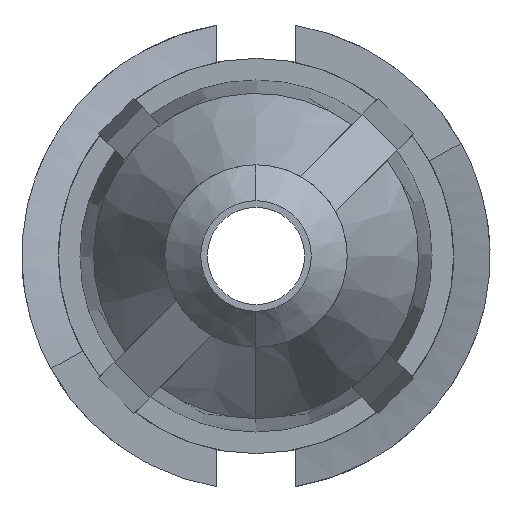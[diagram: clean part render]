
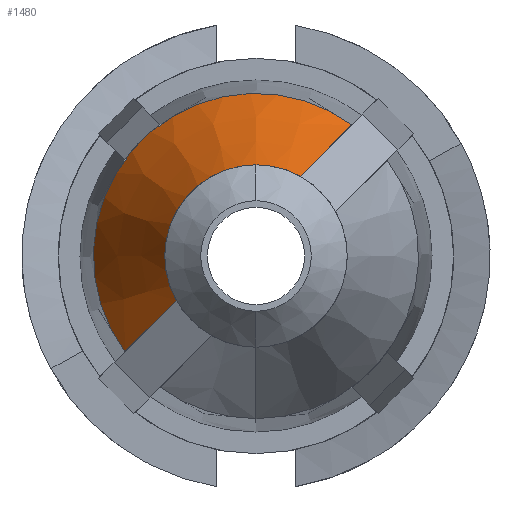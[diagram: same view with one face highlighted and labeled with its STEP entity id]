
A CAD part, left-side view. The second image highlights one B-rep face of the part: STEP entity #1480.
In plain terms, the highlighted conical face has half-angle 23.742 degrees and reference radius 2.674 mm.
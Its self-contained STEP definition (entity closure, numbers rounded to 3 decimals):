
#18 = DIRECTION ( 'NONE',  ( 1., 0., 0. ) ) ;
#175 = FACE_OUTER_BOUND ( 'NONE', #1235, .T. ) ;
#183 = CARTESIAN_POINT ( 'NONE',  ( -56.356, 0.66, 27.506 ) ) ;
#233 = CARTESIAN_POINT ( 'NONE',  ( -54.573, -2.516, 30.682 ) ) ;
#267 = CIRCLE ( 'NONE', #685, 1.5 ) ;
#286 = B_SPLINE_CURVE_WITH_KNOTS ( 'NONE', 3,
 ( #233, #3151, #1004, #1931 ),
 .UNSPECIFIED., .F., .F.,
 ( 4, 4 ),
 ( 0., 0.003 ),
 .UNSPECIFIED. ) ;
#451 = ORIENTED_EDGE ( 'NONE', *, *, #851, .F. ) ;
#507 = CARTESIAN_POINT ( 'NONE',  ( -54.573, 1.222, 26.945 ) ) ;
#513 = ORIENTED_EDGE ( 'NONE', *, *, #1342, .T. ) ;
#538 = CIRCLE ( 'NONE', #2216, 1.5 ) ;
#625 = ORIENTED_EDGE ( 'NONE', *, *, #1683, .T. ) ;
#634 = ORIENTED_EDGE ( 'NONE', *, *, #1659, .F. ) ;
#685 = AXIS2_PLACEMENT_3D ( 'NONE', #1738, #2702, #3171 ) ;
#707 = CARTESIAN_POINT ( 'NONE',  ( -57.243, 0.373, 27.793 ) ) ;
#821 = VERTEX_POINT ( 'NONE', #909 ) ;
#851 = EDGE_CURVE ( 'NONE', #821, #2939, #286, .T. ) ;
#909 = CARTESIAN_POINT ( 'NONE',  ( -54.573, -2.516, 30.682 ) ) ;
#957 = DIRECTION ( 'NONE',  ( 1., 0., 0. ) ) ;
#990 = VERTEX_POINT ( 'NONE', #1879 ) ;
#1004 = CARTESIAN_POINT ( 'NONE',  ( -56.356, -1.954, 30.121 ) ) ;
#1060 = EDGE_CURVE ( 'NONE', #2136, #990, #538, .T. ) ;
#1235 = EDGE_LOOP ( 'NONE', ( #451, #634, #625, #1828, #513 ) ) ;
#1342 = EDGE_CURVE ( 'NONE', #990, #2939, #267, .T. ) ;
#1404 = AXIS2_PLACEMENT_3D ( 'NONE', #3117, #957, #1918 ) ;
#1480 = ADVANCED_FACE ( 'NONE', ( #175 ), #2040, .T. ) ;
#1540 = DIRECTION ( 'NONE',  ( 1., 0., 0. ) ) ;
#1659 = EDGE_CURVE ( 'NONE', #2858, #821, #2780, .T. ) ;
#1683 = EDGE_CURVE ( 'NONE', #2858, #2136, #2771, .T. ) ;
#1738 = CARTESIAN_POINT ( 'NONE',  ( -57.243, -0.937, 28.524 ) ) ;
#1828 = ORIENTED_EDGE ( 'NONE', *, *, #1060, .T. ) ;
#1879 = CARTESIAN_POINT ( 'NONE',  ( -57.243, -0.937, 30.024 ) ) ;
#1918 = DIRECTION ( 'NONE',  ( 0., 0., -1. ) ) ;
#1931 = CARTESIAN_POINT ( 'NONE',  ( -57.243, -1.667, 29.834 ) ) ;
#1973 = DIRECTION ( 'NONE',  ( 0., 0., -1. ) ) ;
#1990 = CARTESIAN_POINT ( 'NONE',  ( -57.243, 0.373, 27.793 ) ) ;
#2040 = CONICAL_SURFACE ( 'NONE', #2507, 2.674, 0.414 ) ;
#2131 = CARTESIAN_POINT ( 'NONE',  ( -54.573, 1.222, 26.945 ) ) ;
#2136 = VERTEX_POINT ( 'NONE', #1990 ) ;
#2215 = CARTESIAN_POINT ( 'NONE',  ( -54.573, -0.937, 28.524 ) ) ;
#2216 = AXIS2_PLACEMENT_3D ( 'NONE', #2969, #1540, #2752 ) ;
#2443 = CARTESIAN_POINT ( 'NONE',  ( -55.464, 0.941, 27.225 ) ) ;
#2486 = CARTESIAN_POINT ( 'NONE',  ( -57.243, -1.667, 29.834 ) ) ;
#2507 = AXIS2_PLACEMENT_3D ( 'NONE', #2215, #18, #1973 ) ;
#2702 = DIRECTION ( 'NONE',  ( 1., 0., 0. ) ) ;
#2752 = DIRECTION ( 'NONE',  ( 0., 0., -1. ) ) ;
#2771 = B_SPLINE_CURVE_WITH_KNOTS ( 'NONE', 3,
 ( #507, #2443, #183, #707 ),
 .UNSPECIFIED., .F., .F.,
 ( 4, 4 ),
 ( 0., 0.003 ),
 .UNSPECIFIED. ) ;
#2780 = CIRCLE ( 'NONE', #1404, 2.674 ) ;
#2858 = VERTEX_POINT ( 'NONE', #2131 ) ;
#2939 = VERTEX_POINT ( 'NONE', #2486 ) ;
#2969 = CARTESIAN_POINT ( 'NONE',  ( -57.243, -0.937, 28.524 ) ) ;
#3117 = CARTESIAN_POINT ( 'NONE',  ( -54.573, -0.937, 28.524 ) ) ;
#3151 = CARTESIAN_POINT ( 'NONE',  ( -55.464, -2.235, 30.402 ) ) ;
#3171 = DIRECTION ( 'NONE',  ( 0., 0., -1. ) ) ;
